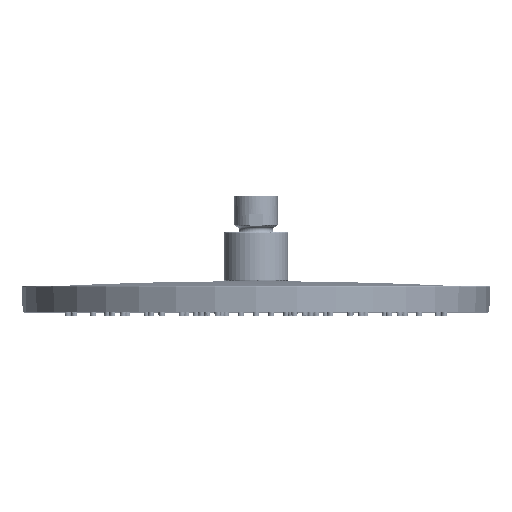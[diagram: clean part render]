
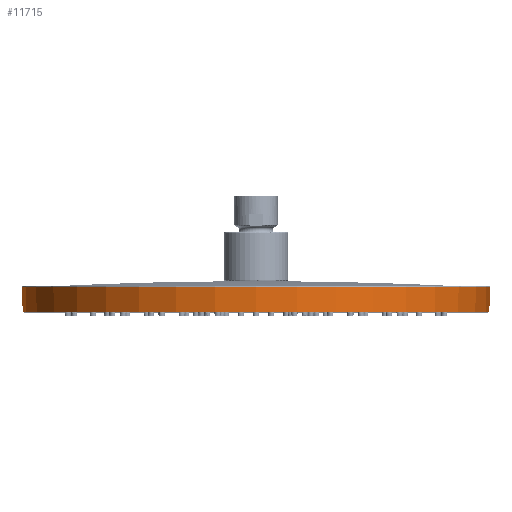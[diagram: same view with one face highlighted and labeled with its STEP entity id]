
A CAD part, top view. The second image highlights one B-rep face of the part: STEP entity #11715.
In plain terms, the highlighted conical face has half-angle 1.5 degrees and reference radius 126.065 mm.
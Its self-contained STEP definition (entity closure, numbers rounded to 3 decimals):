
#74=DIRECTION('',(-0.026,1.,0.));
#75=VECTOR('',#74,13.505);
#76=CARTESIAN_POINT('',(-125.888,0.292,
0.));
#77=LINE('',#76,#75);
#78=CARTESIAN_POINT('',(0.,13.792,0.));
#79=DIRECTION('',(0.,-1.,0.));
#80=DIRECTION('',(1.,0.,0.));
#81=AXIS2_PLACEMENT_3D('',#78,#79,#80);
#98=DIRECTION('',(0.026,1.,0.));
#99=VECTOR('',#98,13.505);
#100=CARTESIAN_POINT('',(125.888,0.292,
0.));
#101=LINE('',#100,#99);
#912=CARTESIAN_POINT('',(0.,0.292,0.));
#913=DIRECTION('',(0.,1.,0.));
#914=DIRECTION('',(-1.,0.,0.));
#915=AXIS2_PLACEMENT_3D('',#912,#913,#914);
#9186=CARTESIAN_POINT('',(126.242,13.792,
0.));
#9187=CARTESIAN_POINT('',(-126.242,13.792,
0.));
#9188=VERTEX_POINT('',#9186);
#9189=VERTEX_POINT('',#9187);
#9190=CARTESIAN_POINT('',(125.888,0.292,
0.));
#9191=VERTEX_POINT('',#9190);
#9192=CARTESIAN_POINT('',(-125.888,0.292,
0.));
#9193=VERTEX_POINT('',#9192);
#11700=CARTESIAN_POINT('',(0.,7.042,0.));
#11701=DIRECTION('',(0.,1.,0.));
#11702=DIRECTION('',(1.,0.,0.));
#11703=AXIS2_PLACEMENT_3D('',#11700,#11701,#11702);
#11704=CONICAL_SURFACE('',#11703,126.065,1.5);
#11706=ORIENTED_EDGE('',*,*,#11705,.F.);
#11708=ORIENTED_EDGE('',*,*,#11707,.F.);
#11710=ORIENTED_EDGE('',*,*,#11709,.F.);
#11712=ORIENTED_EDGE('',*,*,#11711,.T.);
#11713=EDGE_LOOP('',(#11706,#11708,#11710,#11712));
#11714=FACE_OUTER_BOUND('',#11713,.F.);
#82=CIRCLE('',#81,126.242);
#916=CIRCLE('',#915,125.888);
#11705=EDGE_CURVE('',#9188,#9189,#82,.T.);
#11707=EDGE_CURVE('',#9191,#9188,#101,.T.);
#11709=EDGE_CURVE('',#9193,#9191,#916,.T.);
#11711=EDGE_CURVE('',#9193,#9189,#77,.T.);
#11715=ADVANCED_FACE('',(#11714),#11704,.T.);
